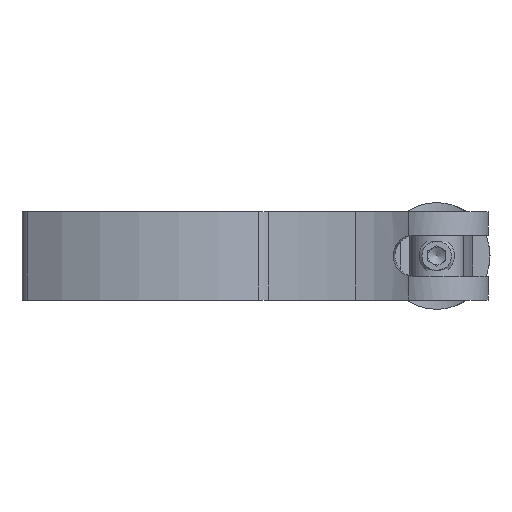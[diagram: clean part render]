
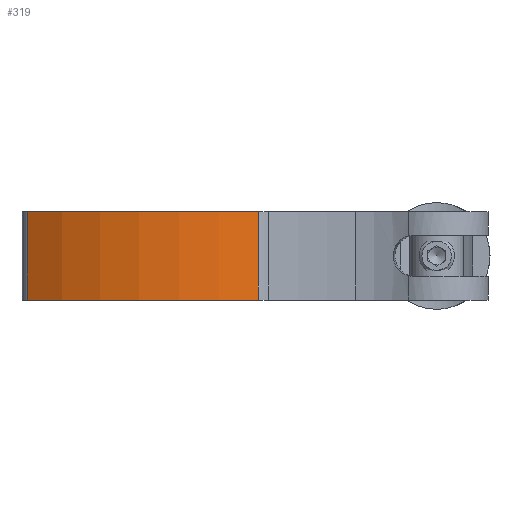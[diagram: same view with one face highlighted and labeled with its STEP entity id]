
A CAD part, top view. The second image highlights one B-rep face of the part: STEP entity #319.
In plain terms, the highlighted cylindrical face has radius 45.662 mm (diameter 91.324 mm), a partial arc.
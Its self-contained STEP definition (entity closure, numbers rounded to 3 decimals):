
#319=ADVANCED_FACE('',(#587),#589,.T.);
#587=FACE_BOUND('',#588,.T.);
#588=EDGE_LOOP('',(#886,#887,#888,#889));
#589=CYLINDRICAL_SURFACE('',#590,45.662);
#590=AXIS2_PLACEMENT_3D('',#591,#592,#593);
#591=CARTESIAN_POINT('',(-44.497,-15.,-39.353));
#592=DIRECTION('',(0.,1.,0.));
#593=DIRECTION('',(-0.546,0.,0.838));
#886=ORIENTED_EDGE('',*,*,#1034,.T.);
#887=ORIENTED_EDGE('',*,*,#1047,.T.);
#888=ORIENTED_EDGE('',*,*,#1024,.F.);
#889=ORIENTED_EDGE('',*,*,#1046,.F.);
#1024=EDGE_CURVE('',#1181,#1183,#1184,.T.);
#1034=EDGE_CURVE('',#1200,#1198,#1201,.T.);
#1046=EDGE_CURVE('',#1200,#1181,#1217,.T.);
#1047=EDGE_CURVE('',#1198,#1183,#1218,.T.);
#1181=VERTEX_POINT('',#2144);
#1183=VERTEX_POINT('',#2149);
#1184=CIRCLE('',#2150,45.662);
#1198=VERTEX_POINT('',#2190);
#1200=VERTEX_POINT('',#2195);
#1201=CIRCLE('',#2196,45.662);
#1217=LINE('',#2241,#2242);
#1218=LINE('',#2244,#2245);
#2144=CARTESIAN_POINT('',(-69.421,0.,-1.093));
#2149=CARTESIAN_POINT('',(-30.13,0.,3.99));
#2150=AXIS2_PLACEMENT_3D('',#2151,#2152,#2153);
#2151=CARTESIAN_POINT('',(-44.497,0.,-39.353));
#2152=DIRECTION('',(0.,1.,0.));
#2153=DIRECTION('',(-0.546,0.,0.838));
#2190=CARTESIAN_POINT('',(-30.13,-15.,3.99));
#2195=CARTESIAN_POINT('',(-69.421,-15.,-1.093));
#2196=AXIS2_PLACEMENT_3D('',#2197,#2198,#2199);
#2197=CARTESIAN_POINT('',(-44.497,-15.,-39.353));
#2198=DIRECTION('',(0.,1.,0.));
#2199=DIRECTION('',(-0.546,0.,0.838));
#2241=CARTESIAN_POINT('',(-69.421,-15.,-1.093));
#2242=VECTOR('',#2243,1.);
#2243=DIRECTION('',(0.,1.,0.));
#2244=CARTESIAN_POINT('',(-30.13,-15.,3.99));
#2245=VECTOR('',#2246,1.);
#2246=DIRECTION('',(0.,1.,0.));
